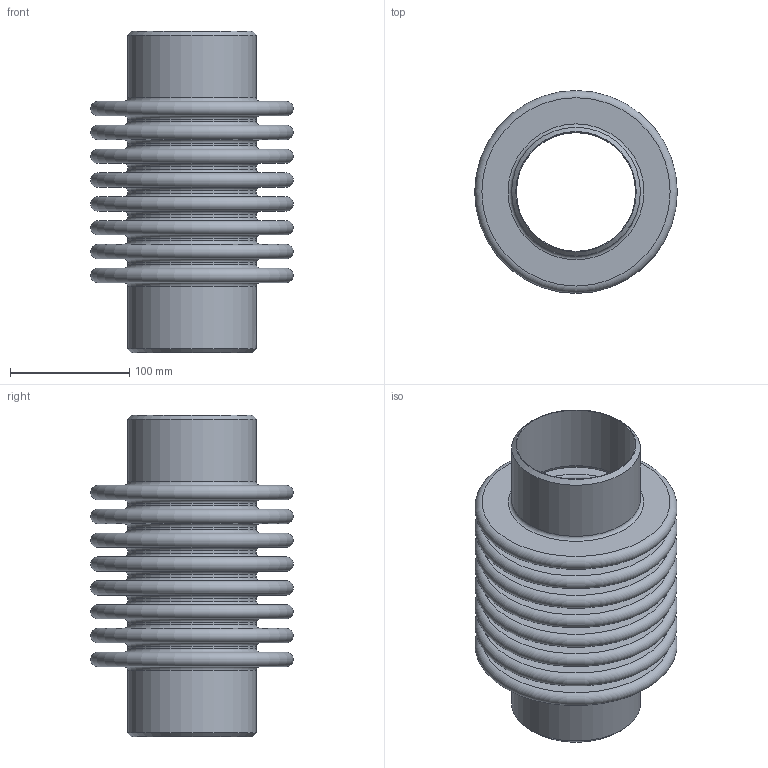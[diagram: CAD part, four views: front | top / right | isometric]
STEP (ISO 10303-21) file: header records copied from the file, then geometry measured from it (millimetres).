
FILE_DESCRIPTION(/* description */ ('D140-02124','CAx-IF Rec.Pracs.---Representation and Presentation of Product Manufacturing Information (PMI)---4.0---2014-10-13'),/* implementation_level */ '2;1');
FILE_NAME(/* name */ '',/* time_stamp */ '2026-04-13T21:24:16+03:00',/* author */ ('DN.RU'),/* organization */ ('DN.RU'),/* preprocessor_version */ 'ST-DEVELOPER v20',/* originating_system */ 'Autodesk Inventor 2025',/* authorisation */ '');
FILE_SCHEMA (('AP242_MANAGED_MODEL_BASED_3D_ENGINEERING_MIM_LF { 1 0 10303 442 1 1 4 }'));
Length unit declared in the file: millimetre
Products named in the file (1): CB-3131-W
Bounding box: 170 x 170 x 270 mm (x, y, z)
Volume: 415349.7 mm3; surface area: 592531 mm2
Topology: 1 solids, 1 shells, 300 faces, 735 edges, 490 vertices
Faces by surface type: plane 127, bspline 84, torus 48, cylinder 39, cone 2
Full cylindrical faces by diameter (mm): 100 x2, 106 x7, 108 x9
Entity records: 12516 total; most frequent: CARTESIAN_POINT 5058, ORIENTED_EDGE 1470, DIRECTION 1337, EDGE_CURVE 735, AXIS2_PLACEMENT_3D 524, VERTEX_POINT 490, STYLED_ITEM 370, EDGE_LOOP 355
